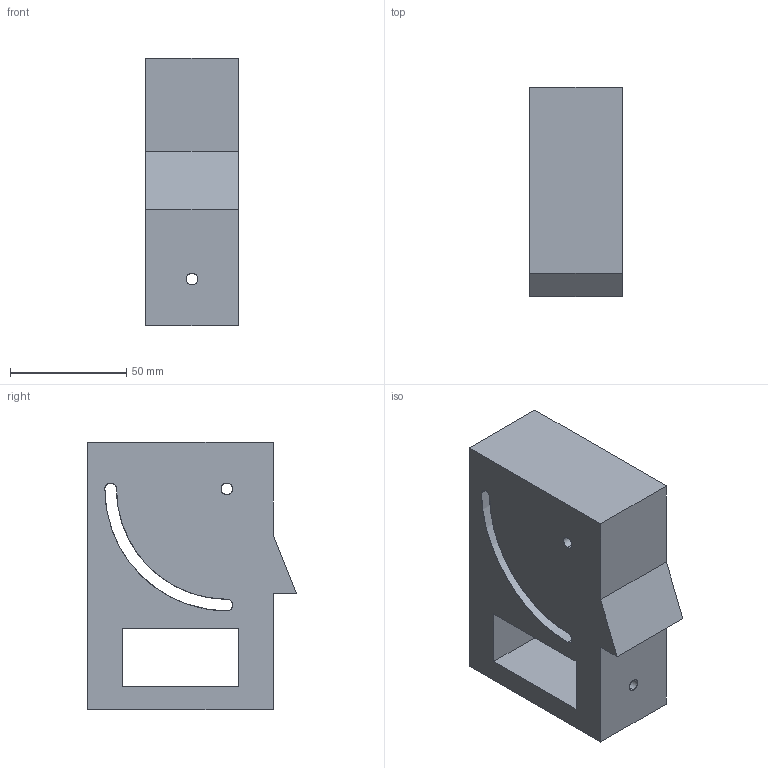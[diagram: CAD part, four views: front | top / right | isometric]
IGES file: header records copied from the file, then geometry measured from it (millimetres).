
Start section: Comment
Global section: file name: anclaje para base.igs; native system:  By UGS Corp.; preprocessor: XPlus GENERIC/IGES 3.0; author: Author; organization: Title; date: 20140326.084307; units: inch
Bounding box: 40 x 90 x 115 mm (x, y, z)
Surface area: 45295.6 mm2 (no closed solid volume)
Topology: 0 solids, 0 shells, 24 faces, 132 edges, 132 vertices
Faces by surface type: bspline 24
